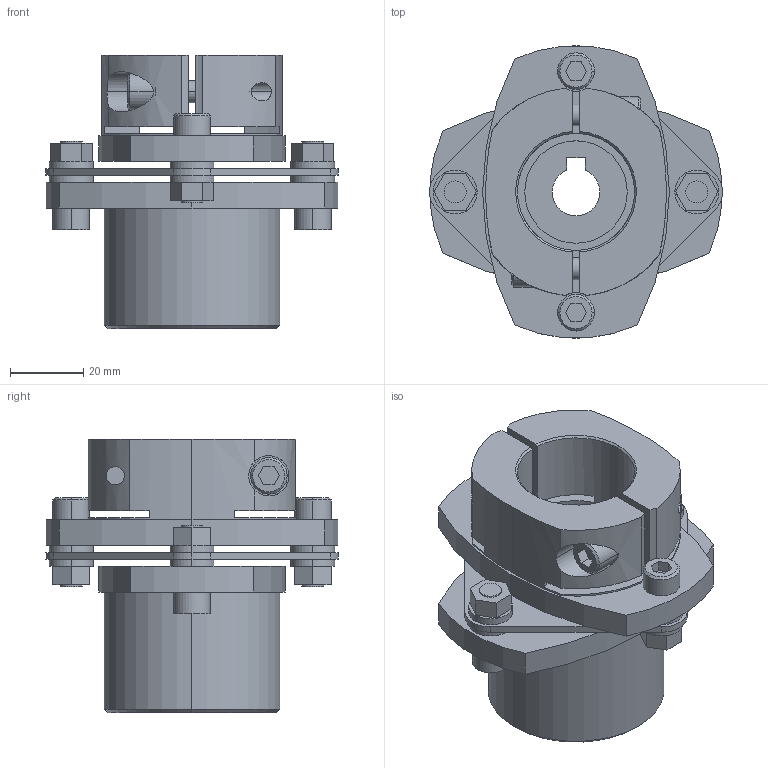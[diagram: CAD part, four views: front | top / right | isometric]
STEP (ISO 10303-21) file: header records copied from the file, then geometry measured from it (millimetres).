
FILE_DESCRIPTION((''),'2;1');
FILE_NAME('LCS-80M-16L亊32B.stp','2011-08-20T16:17:10',(''),(''),'AutoCAD STEP 2000i','AutoCAD 2000i',', , ');
FILE_SCHEMA(('CONFIG_CONTROL_DESIGN'));
Length unit declared in the file: millimetre
Products named in the file (9): LCS-80M-16L×32B; 忣兜1; LC80-B032; LC80-B028; LC80-B020; LC80M-L016; LC80-B015-1; LC80-B015; LCS80-ITA
Assembly tree (8 placements, depth 2):
  LCS-80M-16L×32B
    忣兜1
    LC80-B032
    LC80-B028
    LC80-B020
    LC80M-L016
    LC80-B015-1
    LC80-B015
    LCS80-ITA
Bounding box: 80 x 79.95 x 74.75 mm (x, y, z)
Volume: 131020 mm3; surface area: 40074.2 mm2
Topology: 1 solids, 1 shells, 230 faces, 574 edges, 378 vertices
Faces by surface type: plane 115, cylinder 96, cone 19
Entity records: 7377 total; most frequent: CARTESIAN_POINT 1467, DIRECTION 1256, ORIENTED_EDGE 1148, EDGE_CURVE 574, AXIS2_PLACEMENT_3D 461, VERTEX_POINT 378, VECTOR 334, LINE 334
